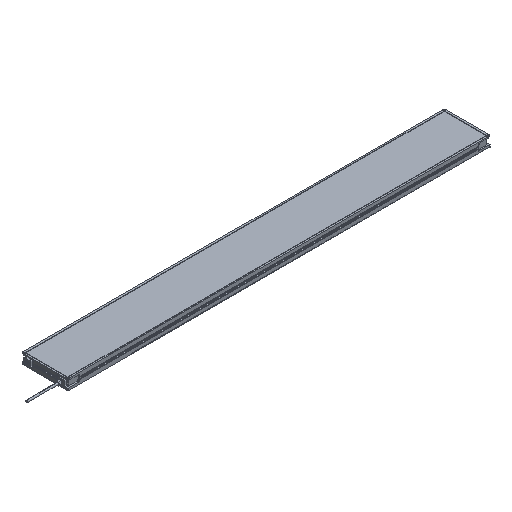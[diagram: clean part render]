
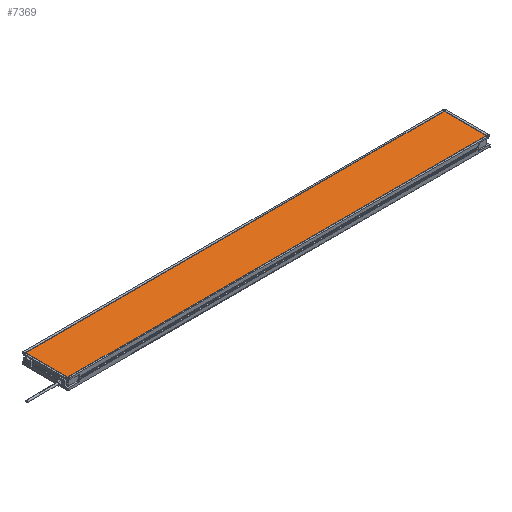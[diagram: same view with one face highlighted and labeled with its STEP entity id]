
A CAD part, isometric view. The second image highlights one B-rep face of the part: STEP entity #7369.
In plain terms, the highlighted planar face has unit normal (0, 0, 1).
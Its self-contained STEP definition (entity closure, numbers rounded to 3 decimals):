
#57 = EDGE_CURVE ( 'NONE', #8425, #10435, #6976, .T. ) ;
#721 = DIRECTION ( 'NONE',  ( 0., 0., -1. ) ) ;
#3474 = CARTESIAN_POINT ( 'NONE',  ( 4., 196., 41.85 ) ) ;
#3748 = ORIENTED_EDGE ( 'NONE', *, *, #9426, .T. ) ;
#3753 = DIRECTION ( 'NONE',  ( -1., 0., 0. ) ) ;
#4545 = EDGE_CURVE ( 'NONE', #6482, #17916, #12068, .T. ) ;
#4902 = DIRECTION ( 'NONE',  ( 1., 0., 0. ) ) ;
#4960 = VECTOR ( 'NONE', #12049, 1000. ) ;
#6155 = VECTOR ( 'NONE', #3753, 1000. ) ;
#6482 = VERTEX_POINT ( 'NONE', #7445 ) ;
#6687 = VECTOR ( 'NONE', #15415, 1000. ) ;
#6976 = LINE ( 'NONE', #13643, #9913 ) ;
#7109 = LINE ( 'NONE', #9943, #6687 ) ;
#7369 = ADVANCED_FACE ( 'NONE', ( #8775 ), #9036, .F. ) ;
#7399 = DIRECTION ( 'NONE',  ( -1., 0., 0. ) ) ;
#7445 = CARTESIAN_POINT ( 'NONE',  ( 1896., 196., 41.85 ) ) ;
#7671 = CARTESIAN_POINT ( 'NONE',  ( 0., 0., 41.85 ) ) ;
#8355 = EDGE_CURVE ( 'NONE', #17916, #8425, #11034, .T. ) ;
#8425 = VERTEX_POINT ( 'NONE', #15412 ) ;
#8741 = ORIENTED_EDGE ( 'NONE', *, *, #8355, .T. ) ;
#8775 = FACE_OUTER_BOUND ( 'NONE', #15016, .T. ) ;
#9036 = PLANE ( 'NONE',  #10702 ) ;
#9426 = EDGE_CURVE ( 'NONE', #10435, #6482, #7109, .T. ) ;
#9913 = VECTOR ( 'NONE', #4902, 1000. ) ;
#9921 = CARTESIAN_POINT ( 'NONE',  ( 1896., 4., 41.85 ) ) ;
#9943 = CARTESIAN_POINT ( 'NONE',  ( 1896., 0., 41.85 ) ) ;
#10435 = VERTEX_POINT ( 'NONE', #9921 ) ;
#10702 = AXIS2_PLACEMENT_3D ( 'NONE', #7671, #721, #7399 ) ;
#11034 = LINE ( 'NONE', #16597, #4960 ) ;
#12049 = DIRECTION ( 'NONE',  ( 0., -1., 0. ) ) ;
#12068 = LINE ( 'NONE', #16254, #6155 ) ;
#13643 = CARTESIAN_POINT ( 'NONE',  ( 0., 4., 41.85 ) ) ;
#15016 = EDGE_LOOP ( 'NONE', ( #3748, #15195, #8741, #17703 ) ) ;
#15195 = ORIENTED_EDGE ( 'NONE', *, *, #4545, .T. ) ;
#15412 = CARTESIAN_POINT ( 'NONE',  ( 4., 4., 41.85 ) ) ;
#15415 = DIRECTION ( 'NONE',  ( 0., 1., 0. ) ) ;
#16254 = CARTESIAN_POINT ( 'NONE',  ( 0., 196., 41.85 ) ) ;
#16597 = CARTESIAN_POINT ( 'NONE',  ( 4., 0., 41.85 ) ) ;
#17703 = ORIENTED_EDGE ( 'NONE', *, *, #57, .T. ) ;
#17916 = VERTEX_POINT ( 'NONE', #3474 ) ;
